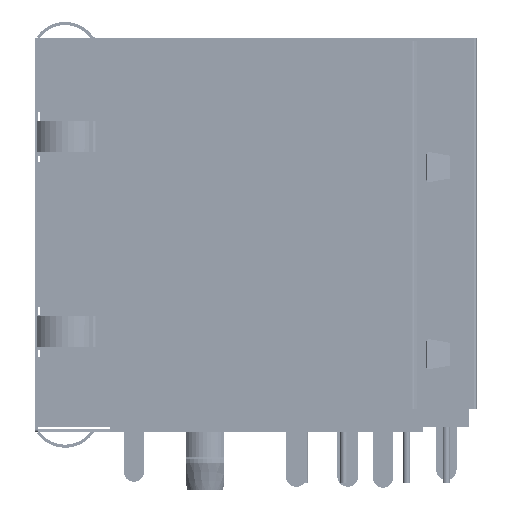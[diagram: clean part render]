
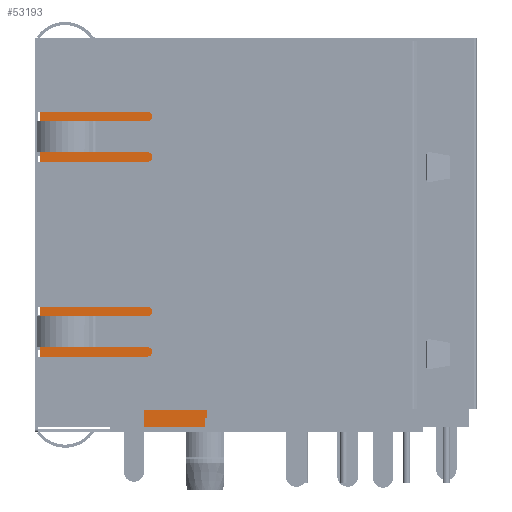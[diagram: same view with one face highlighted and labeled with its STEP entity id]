
A CAD part, front view. The second image highlights one B-rep face of the part: STEP entity #53193.
In plain terms, the highlighted planar face has unit normal (0, -1, 0).
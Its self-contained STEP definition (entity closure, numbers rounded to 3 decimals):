
#26457=DIRECTION('',(-1.,0.,0.));
#26458=VECTOR('',#26457,23.3);
#26459=CARTESIAN_POINT('',(23.3,-64.12,14.2));
#26460=LINE('',#26459,#26458);
#32737=DIRECTION('',(0.,0.,1.));
#32738=VECTOR('',#32737,11.6);
#32739=CARTESIAN_POINT('',(23.3,-64.12,2.6));
#32740=LINE('',#32739,#32738);
#32749=DIRECTION('',(-1.,0.,0.));
#32750=VECTOR('',#32749,10.6);
#32751=CARTESIAN_POINT('',(10.6,-64.12,-10.4));
#32752=LINE('',#32751,#32750);
#32753=DIRECTION('',(0.,0.,1.));
#32754=VECTOR('',#32753,24.6);
#32755=CARTESIAN_POINT('',(0.,-64.12,-10.4));
#32756=LINE('',#32755,#32754);
#32757=DIRECTION('',(-1.,0.,0.));
#32758=VECTOR('',#32757,8.3);
#32759=CARTESIAN_POINT('',(23.3,-64.12,2.6));
#32760=LINE('',#32759,#32758);
#32761=DIRECTION('',(-1.,0.,0.));
#32762=VECTOR('',#32761,4.4);
#32763=CARTESIAN_POINT('',(15.,-64.12,-9.8));
#32764=LINE('',#32763,#32762);
#32765=DIRECTION('',(0.,0.,-1.));
#32766=VECTOR('',#32765,0.6);
#32767=CARTESIAN_POINT('',(10.6,-64.12,-9.8));
#32768=LINE('',#32767,#32766);
#32769=DIRECTION('',(0.,0.,1.));
#32770=VECTOR('',#32769,12.4);
#32771=CARTESIAN_POINT('',(15.,-64.12,-9.8));
#32772=LINE('',#32771,#32770);
#38339=CARTESIAN_POINT('',(0.,-64.12,-10.4));
#38340=VERTEX_POINT('',#38339);
#38341=CARTESIAN_POINT('',(10.6,-64.12,-10.4));
#38342=VERTEX_POINT('',#38341);
#38883=CARTESIAN_POINT('',(0.,-64.12,14.2));
#38884=VERTEX_POINT('',#38883);
#39393=CARTESIAN_POINT('',(23.3,-64.12,14.2));
#39394=VERTEX_POINT('',#39393);
#41038=CARTESIAN_POINT('',(23.3,-64.12,2.6));
#41039=VERTEX_POINT('',#41038);
#41050=CARTESIAN_POINT('',(15.,-64.12,2.6));
#41051=VERTEX_POINT('',#41050);
#41052=CARTESIAN_POINT('',(15.,-64.12,-9.8));
#41053=VERTEX_POINT('',#41052);
#41054=CARTESIAN_POINT('',(10.6,-64.12,-9.8));
#41055=VERTEX_POINT('',#41054);
#53175=CARTESIAN_POINT('',(0.,-64.12,14.2));
#53176=DIRECTION('',(0.,-1.,0.));
#53177=DIRECTION('',(1.,0.,0.));
#53178=AXIS2_PLACEMENT_3D('',#53175,#53176,#53177);
#53179=PLANE('',#53178);
#53180=ORIENTED_EDGE('',*,*,#42617,.T.);
#53181=ORIENTED_EDGE('',*,*,#43326,.T.);
#53182=ORIENTED_EDGE('',*,*,#44153,.F.);
#53183=ORIENTED_EDGE('',*,*,#53168,.F.);
#53184=ORIENTED_EDGE('',*,*,#53157,.T.);
#53186=ORIENTED_EDGE('',*,*,#53185,.F.);
#53188=ORIENTED_EDGE('',*,*,#53187,.T.);
#53190=ORIENTED_EDGE('',*,*,#53189,.T.);
#53191=EDGE_LOOP('',(#53180,#53181,#53182,#53183,#53184,#53186,#53188,#53190));
#53192=FACE_OUTER_BOUND('',#53191,.F.);
#53193=ADVANCED_FACE('',(#53192),#53179,.T.);
#42617=EDGE_CURVE('',#38342,#38340,#32752,.T.);
#43326=EDGE_CURVE('',#38340,#38884,#32756,.T.);
#44153=EDGE_CURVE('',#39394,#38884,#26460,.T.);
#53157=EDGE_CURVE('',#41039,#41051,#32760,.T.);
#53168=EDGE_CURVE('',#41039,#39394,#32740,.T.);
#53185=EDGE_CURVE('',#41053,#41051,#32772,.T.);
#53187=EDGE_CURVE('',#41053,#41055,#32764,.T.);
#53189=EDGE_CURVE('',#41055,#38342,#32768,.T.);
